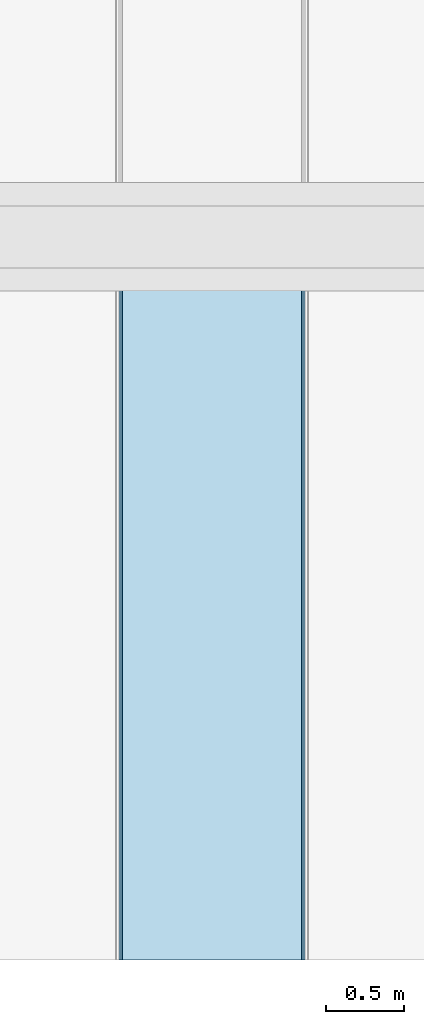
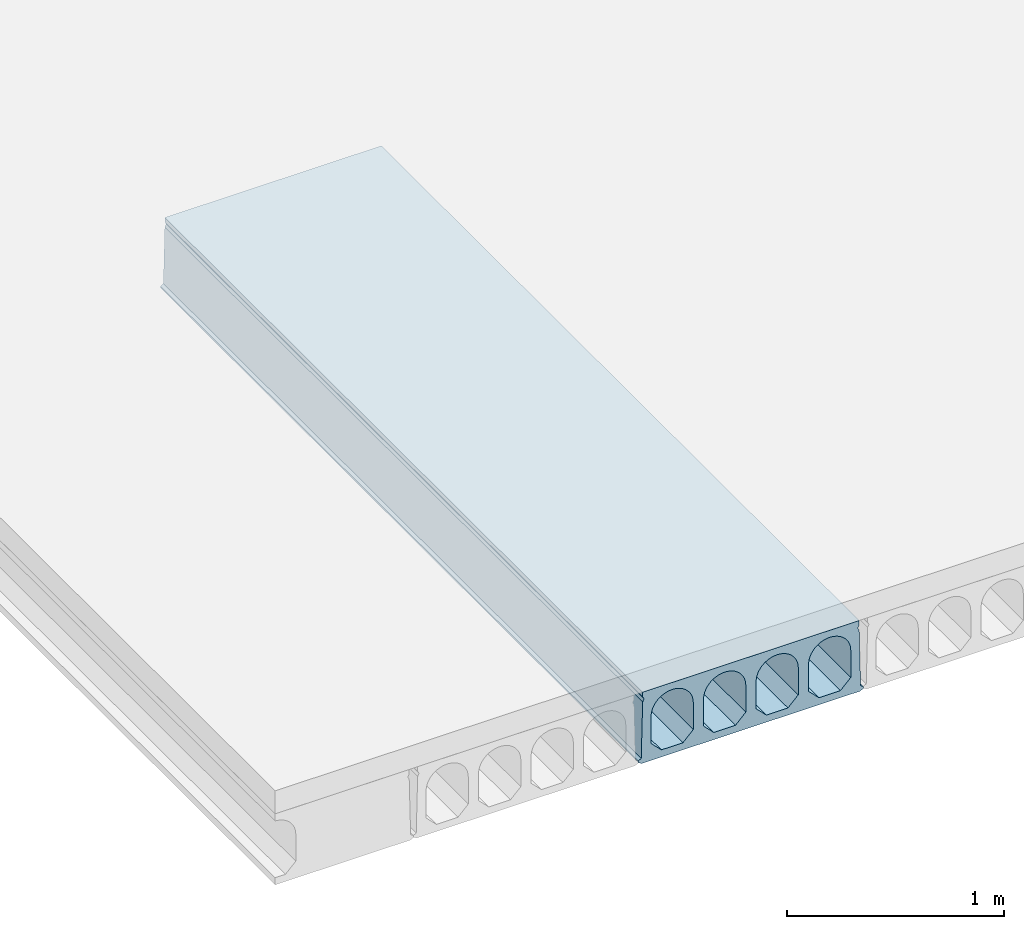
# One storey, part 40 of 98: 1 slab.
"""IFC2X3 building model written with IfcOpenShell, lengths in millimetres."""

from ifc_helpers import new_model, entity, si_unit, converted_unit, derived_unit, direction, frame, origin_with_axes, place, context, subcontext, project, spatial, faceted_brep, type_object, element, save


model = new_model("IFC2X3")

# Units and contexts
model_context = context("Model", 3, precision=0.01, world=frame((0.0, 4.29681676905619e-09, 0.0)), true_north=direction((4.01073788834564e-13, 1.0)))
plan_context = context("Plan", 3, precision=0.01, world=frame((0.0, 4.29681676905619e-09, 0.0)), true_north=direction((4.01073788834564e-13, 1.0)))
body_context = subcontext(model_context, "Body", "Model", "MODEL_VIEW")
ifc_project = project(units=[converted_unit("PLANEANGLEUNIT", "DEGREE", entity("IfcPositiveLengthMeasure", 0.0174532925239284), si_unit("PLANEANGLEUNIT", "RADIAN"), dimensions=[0, 0, 0, 0, 0, 0, 0]), si_unit("AREAUNIT", "SQUARE_METRE"), si_unit("LENGTHUNIT", "METRE", prefix="MILLI"), si_unit("MASSUNIT", "GRAM", prefix="KILO"), si_unit("POWERUNIT", "WATT"), si_unit("PRESSUREUNIT", "PASCAL"), si_unit("FORCEUNIT", "NEWTON", prefix="KILO"), si_unit("ELECTRICCURRENTUNIT", "AMPERE"), si_unit("THERMODYNAMICTEMPERATUREUNIT", "DEGREE_CELSIUS"), si_unit("TIMEUNIT", "SECOND"), si_unit("VOLUMEUNIT", "CUBIC_METRE"), derived_unit("LINEARVELOCITYUNIT", [(si_unit("LENGTHUNIT", "METRE"), 1), (si_unit("TIMEUNIT", "SECOND"), -1)]), derived_unit("VOLUMETRICFLOWRATEUNIT", [(si_unit("VOLUMEUNIT", "CUBIC_METRE"), 1), (si_unit("TIMEUNIT", "SECOND"), -1)]), derived_unit("THERMALTRANSMITTANCEUNIT", [(si_unit("POWERUNIT", "WATT"), 1), (si_unit("THERMODYNAMICTEMPERATUREUNIT", "KELVIN"), -1), (si_unit("AREAUNIT", "SQUARE_METRE"), -1)])], contexts=[model_context, plan_context])

# Site, building, storey
site_placement = place(None, frame((0.0, -4.29681676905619e-09, 0.0), z_axis=(0.0, 0.0, 1.0), x_axis=(1.0, 0.0, 0.0)))
site = spatial("IfcSite", under=ifc_project, at=site_placement, Name="Gardermoen", CompositionType="ELEMENT")
building_placement = place(site_placement, frame((0.0, 4.29681676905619e-09, 0.0), z_axis=(0.0, 0.0, 1.0), x_axis=(1.0, 0.0, 0.0)))
building = spatial("IfcBuilding", under=site, at=building_placement, Name="TS", CompositionType="ELEMENT")
storey_placement = place(building_placement, origin_with_axes())
storey = spatial("IfcBuildingStorey", under=building, at=storey_placement, Name="D", CompositionType="ELEMENT", Elevation=0.0)

# Slab
slab_type = type_object("IfcSlabType", Name="HD400", PredefinedType="NOTDEFINED")
slab_placement = place(storey_placement, frame((516399.999766, 396739.995625, 203600.0), z_axis=(0.0, 0.0, 1.0), x_axis=(0.0, 1.0, 0.0)))
element("IfcSlab", 1, at=slab_placement, inside=storey, type_object=slab_type, Name="HULLDEKKE", ObjectType="HD400", PredefinedType="FLOOR", context=body_context, shape_type="Brep", body=[
    faceted_brep([(4105.68103395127, 600.0, -180.0), (4105.68103395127, 600.0, -190.0), (8520.0, 600.0, -190.0), (8520.0, 600.0, -180.0), (4105.68103395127, 585.0, -170.0), (8520.0, 585.0, -170.0), (4105.68103395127, 577.5, 145.0), (8520.0, 577.5, 145.0), (4105.68103395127, 570.0, 160.0), (8520.0, 570.0, 160.0), (4105.68103395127, 577.5, 175.0), (8520.0, 577.5, 175.0), (4105.68103395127, 577.5, 200.0), (8520.0, 577.5, 200.0), (4105.68103395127, -577.5, 200.0), (8520.0, -577.5, 200.0), (4105.68103395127, -577.5, 175.0), (8520.0, -577.5, 175.0), (4105.68103395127, -570.0, 160.0), (8520.0, -570.0, 160.0), (4105.68103395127, -577.5, 145.0), (8520.0, -577.5, 145.0), (4105.68103395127, -585.0, -170.0), (8520.0, -585.0, -170.0), (4105.68103395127, -600.0, -180.0), (8520.0, -600.0, -180.0), (4105.68103395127, -600.0, -190.0), (8520.0, -600.0, -190.0), (4105.68103395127, -583.380004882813, -200.0), (8520.0, -583.380004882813, -200.0), (4105.68103395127, 583.380004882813, -200.0), (8520.0, 583.380004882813, -200.0), (4105.68103395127, -477.5, -160.0), (4105.68103395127, -362.5, -160.0), (8520.0, -362.5, -160.0), (8520.0, -477.5, -160.0), (4105.68103395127, -532.5, -105.0), (8520.0, -532.5, -105.0), (4105.68103395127, -532.5, 47.5), (8520.0, -532.5, 47.5), (4105.68103395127, -532.115755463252, 56.7901763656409), (8520.0, -532.115755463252, 56.7901763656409), (4105.68103395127, -530.965646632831, 66.0168914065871), (8520.0, -530.965646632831, 66.0168914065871), (4105.68103395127, -529.057529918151, 75.1171173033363), (8520.0, -529.057529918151, 75.1171173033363), (4105.68103395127, -526.404439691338, 84.028690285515), (8520.0, -526.404439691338, 84.028690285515), (4105.68103395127, -523.024499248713, 92.6907352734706), (8520.0, -523.024499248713, 92.6907352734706), (4105.68103395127, -518.940797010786, 101.044081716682), (8520.0, -518.940797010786, 101.044081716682), (4105.68103395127, -514.181228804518, 109.031667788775), (8520.0, -514.181228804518, 109.031667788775), (4105.68103395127, -508.778307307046, 116.598930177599), (8520.0, -508.778307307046, 116.598930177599), (4105.68103395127, -502.768939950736, 123.694176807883), (8520.0, -502.768939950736, 123.694176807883), (4105.68103395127, -496.194176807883, 130.268939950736), (8520.0, -496.194176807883, 130.268939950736), (4105.68103395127, -489.098930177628, 136.278307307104), (8520.0, -489.098930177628, 136.278307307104), (4105.68103395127, -481.531667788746, 141.681228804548), (8520.0, -481.531667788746, 141.681228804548), (4105.68103395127, -473.544081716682, 146.440797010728), (8520.0, -473.544081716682, 146.440797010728), (4105.68103395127, -465.190735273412, 150.524499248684), (8520.0, -465.190735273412, 150.524499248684), (4105.68103395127, -456.528690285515, 153.904439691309), (8520.0, -456.528690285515, 153.904439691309), (4105.68103395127, -447.617117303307, 156.55752991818), (8520.0, -447.617117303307, 156.55752991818), (4105.68103395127, -438.516891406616, 158.465646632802), (8520.0, -438.516891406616, 158.465646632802), (4105.68103395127, -429.290176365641, 159.615755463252), (8520.0, -429.290176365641, 159.615755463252), (4105.68103395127, -420.0, 160.0), (8520.0, -420.0, 160.0), (4105.68103395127, -410.709823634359, 159.615755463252), (8520.0, -410.709823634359, 159.615755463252), (4105.68103395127, -401.483108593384, 158.465646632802), (8520.0, -401.483108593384, 158.465646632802), (4105.68103395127, -392.382882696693, 156.55752991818), (8520.0, -392.382882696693, 156.55752991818), (4105.68103395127, -383.471309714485, 153.904439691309), (8520.0, -383.471309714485, 153.904439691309), (4105.68103395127, -374.809264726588, 150.524499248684), (8520.0, -374.809264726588, 150.524499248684), (4105.68103395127, -366.455918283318, 146.440797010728), (8520.0, -366.455918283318, 146.440797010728), (4105.68103395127, -358.468332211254, 141.681228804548), (8520.0, -358.468332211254, 141.681228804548), (4105.68103395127, -350.901069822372, 136.278307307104), (8520.0, -350.901069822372, 136.278307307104), (4105.68103395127, -343.805823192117, 130.268939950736), (8520.0, -343.805823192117, 130.268939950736), (4105.68103395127, -337.231060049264, 123.694176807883), (8520.0, -337.231060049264, 123.694176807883), (4105.68103395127, -331.221692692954, 116.598930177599), (8520.0, -331.221692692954, 116.598930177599), (4105.68103395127, -325.818771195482, 109.031667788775), (8520.0, -325.818771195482, 109.031667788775), (4105.68103395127, -321.059202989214, 101.044081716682), (8520.0, -321.059202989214, 101.044081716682), (4105.68103395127, -316.975500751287, 92.6907352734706), (8520.0, -316.975500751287, 92.6907352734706), (4105.68103395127, -313.595560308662, 84.028690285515), (8520.0, -313.595560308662, 84.028690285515), (4105.68103395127, -310.942470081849, 75.1171173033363), (8520.0, -310.942470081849, 75.1171173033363), (4105.68103395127, -309.034353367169, 66.0168914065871), (8520.0, -309.034353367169, 66.0168914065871), (4105.68103395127, -307.884244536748, 56.7901763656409), (8520.0, -307.884244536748, 56.7901763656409), (4105.68103395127, -307.5, 47.5), (8520.0, -307.5, 47.5), (4105.68103395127, -307.5, -105.0), (8520.0, -307.5, -105.0), (4105.68103395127, -197.5, -160.0), (4105.68103395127, -82.5, -160.0), (8520.0, -82.5, -160.0), (8520.0, -197.5, -160.0), (4105.68103395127, -252.5, -105.0), (8520.0, -252.5, -105.0), (4105.68103395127, -252.5, 47.5), (8520.0, -252.5, 47.5), (4105.68103395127, -252.115755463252, 56.7901763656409), (8520.0, -252.115755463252, 56.7901763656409), (4105.68103395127, -250.965646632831, 66.0168914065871), (8520.0, -250.965646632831, 66.0168914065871), (4105.68103395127, -249.057529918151, 75.1171173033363), (8520.0, -249.057529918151, 75.1171173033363), (4105.68103395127, -246.404439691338, 84.028690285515), (8520.0, -246.404439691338, 84.028690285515), (4105.68103395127, -243.024499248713, 92.6907352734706), (8520.0, -243.024499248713, 92.6907352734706), (4105.68103395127, -238.940797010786, 101.044081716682), (8520.0, -238.940797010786, 101.044081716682), (4105.68103395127, -234.181228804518, 109.031667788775), (8520.0, -234.181228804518, 109.031667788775), (4105.68103395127, -228.778307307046, 116.598930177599), (8520.0, -228.778307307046, 116.598930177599), (4105.68103395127, -222.768939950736, 123.694176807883), (8520.0, -222.768939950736, 123.694176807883), (4105.68103395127, -216.194176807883, 130.268939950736), (8520.0, -216.194176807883, 130.268939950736), (4105.68103395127, -209.098930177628, 136.278307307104), (8520.0, -209.098930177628, 136.278307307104), (4105.68103395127, -201.531667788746, 141.681228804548), (8520.0, -201.531667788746, 141.681228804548), (4105.68103395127, -193.544081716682, 146.440797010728), (8520.0, -193.544081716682, 146.440797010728), (4105.68103395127, -185.190735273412, 150.524499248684), (8520.0, -185.190735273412, 150.524499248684), (4105.68103395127, -176.528690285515, 153.904439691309), (8520.0, -176.528690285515, 153.904439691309), (4105.68103395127, -167.617117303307, 156.55752991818), (8520.0, -167.617117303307, 156.55752991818), (4105.68103395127, -158.516891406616, 158.465646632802), (8520.0, -158.516891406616, 158.465646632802), (4105.68103395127, -149.290176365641, 159.615755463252), (8520.0, -149.290176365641, 159.615755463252), (4105.68103395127, -140.0, 160.0), (8520.0, -140.0, 160.0), (4105.68103395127, -130.709823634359, 159.615755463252), (8520.0, -130.709823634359, 159.615755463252), (4105.68103395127, -121.483108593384, 158.465646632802), (8520.0, -121.483108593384, 158.465646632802), (4105.68103395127, -112.382882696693, 156.55752991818), (8520.0, -112.382882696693, 156.55752991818), (4105.68103395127, -103.471309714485, 153.904439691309), (8520.0, -103.471309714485, 153.904439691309), (4105.68103395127, -94.8092647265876, 150.524499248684), (8520.0, -94.8092647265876, 150.524499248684), (4105.68103395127, -86.4559182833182, 146.440797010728), (8520.0, -86.4559182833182, 146.440797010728), (4105.68103395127, -78.4683322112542, 141.681228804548), (8520.0, -78.4683322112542, 141.681228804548), (4105.68103395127, -70.9010698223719, 136.278307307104), (8520.0, -70.9010698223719, 136.278307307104), (4105.68103395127, -63.8058231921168, 130.268939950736), (8520.0, -63.8058231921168, 130.268939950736), (4105.68103395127, -57.2310600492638, 123.694176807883), (8520.0, -57.2310600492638, 123.694176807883), (4105.68103395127, -51.2216926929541, 116.598930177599), (8520.0, -51.2216926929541, 116.598930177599), (4105.68103395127, -45.8187711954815, 109.031667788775), (8520.0, -45.8187711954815, 109.031667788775), (4105.68103395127, -41.0592029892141, 101.044081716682), (8520.0, -41.0592029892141, 101.044081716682), (4105.68103395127, -36.9755007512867, 92.6907352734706), (8520.0, -36.9755007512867, 92.6907352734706), (4105.68103395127, -33.5955603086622, 84.028690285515), (8520.0, -33.5955603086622, 84.028690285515), (4105.68103395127, -30.942470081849, 75.1171173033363), (8520.0, -30.942470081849, 75.1171173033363), (4105.68103395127, -29.0343533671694, 66.0168914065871), (8520.0, -29.0343533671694, 66.0168914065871), (4105.68103395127, -27.8842445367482, 56.7901763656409), (8520.0, -27.8842445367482, 56.7901763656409), (4105.68103395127, -27.5, 47.5), (8520.0, -27.5, 47.5), (4105.68103395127, -27.5, -105.0), (8520.0, -27.5, -105.0), (4105.68103395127, 82.5, -160.0), (4105.68103395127, 197.5, -160.0), (8520.0, 197.5, -160.0), (8520.0, 82.5, -160.0), (4105.68103395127, 27.5, -105.0), (8520.0, 27.5, -105.0), (4105.68103395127, 27.5, 47.5), (8520.0, 27.5, 47.5), (4105.68103395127, 27.8842445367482, 56.7901763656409), (8520.0, 27.8842445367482, 56.7901763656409), (4105.68103395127, 29.0343533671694, 66.0168914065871), (8520.0, 29.0343533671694, 66.0168914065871), (4105.68103395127, 30.942470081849, 75.1171173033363), (8520.0, 30.942470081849, 75.1171173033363), (4105.68103395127, 33.5955603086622, 84.028690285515), (8520.0, 33.5955603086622, 84.028690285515), (4105.68103395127, 36.9755007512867, 92.6907352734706), (8520.0, 36.9755007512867, 92.6907352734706), (4105.68103395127, 41.0592029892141, 101.044081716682), (8520.0, 41.0592029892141, 101.044081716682), (4105.68103395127, 45.8187711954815, 109.031667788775), (8520.0, 45.8187711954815, 109.031667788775), (4105.68103395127, 51.2216926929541, 116.598930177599), (8520.0, 51.2216926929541, 116.598930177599), (4105.68103395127, 57.2310600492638, 123.694176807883), (8520.0, 57.2310600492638, 123.694176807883), (4105.68103395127, 63.8058231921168, 130.268939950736), (8520.0, 63.8058231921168, 130.268939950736), (4105.68103395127, 70.9010698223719, 136.278307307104), (8520.0, 70.9010698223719, 136.278307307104), (4105.68103395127, 78.4683322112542, 141.681228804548), (8520.0, 78.4683322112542, 141.681228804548), (4105.68103395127, 86.4559182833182, 146.440797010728), (8520.0, 86.4559182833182, 146.440797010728), (4105.68103395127, 94.8092647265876, 150.524499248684), (8520.0, 94.8092647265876, 150.524499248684), (4105.68103395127, 103.471309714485, 153.904439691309), (8520.0, 103.471309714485, 153.904439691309), (4105.68103395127, 112.382882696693, 156.55752991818), (8520.0, 112.382882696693, 156.55752991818), (4105.68103395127, 121.483108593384, 158.465646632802), (8520.0, 121.483108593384, 158.465646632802), (4105.68103395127, 130.709823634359, 159.615755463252), (8520.0, 130.709823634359, 159.615755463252), (4105.68103395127, 140.0, 160.0), (8520.0, 140.0, 160.0), (4105.68103395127, 149.290176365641, 159.615755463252), (8520.0, 149.290176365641, 159.615755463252), (4105.68103395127, 158.516891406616, 158.465646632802), (8520.0, 158.516891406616, 158.465646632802), (4105.68103395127, 167.617117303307, 156.55752991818), (8520.0, 167.617117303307, 156.55752991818), (4105.68103395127, 176.528690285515, 153.904439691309), (8520.0, 176.528690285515, 153.904439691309), (4105.68103395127, 185.190735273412, 150.524499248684), (8520.0, 185.190735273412, 150.524499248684), (4105.68103395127, 193.544081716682, 146.440797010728), (8520.0, 193.544081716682, 146.440797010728), (4105.68103395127, 201.531667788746, 141.681228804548), (8520.0, 201.531667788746, 141.681228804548), (4105.68103395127, 209.098930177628, 136.278307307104), (8520.0, 209.098930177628, 136.278307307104), (4105.68103395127, 216.194176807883, 130.268939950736), (8520.0, 216.194176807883, 130.268939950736), (4105.68103395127, 222.768939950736, 123.694176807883), (8520.0, 222.768939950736, 123.694176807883), (4105.68103395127, 228.778307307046, 116.598930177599), (8520.0, 228.778307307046, 116.598930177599), (4105.68103395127, 234.181228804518, 109.031667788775), (8520.0, 234.181228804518, 109.031667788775), (4105.68103395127, 238.940797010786, 101.044081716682), (8520.0, 238.940797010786, 101.044081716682), (4105.68103395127, 243.024499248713, 92.6907352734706), (8520.0, 243.024499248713, 92.6907352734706), (4105.68103395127, 246.404439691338, 84.028690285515), (8520.0, 246.404439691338, 84.028690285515), (4105.68103395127, 249.057529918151, 75.1171173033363), (8520.0, 249.057529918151, 75.1171173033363), (4105.68103395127, 250.965646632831, 66.0168914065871), (8520.0, 250.965646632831, 66.0168914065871), (4105.68103395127, 252.115755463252, 56.7901763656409), (8520.0, 252.115755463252, 56.7901763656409), (4105.68103395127, 252.5, 47.5), (8520.0, 252.5, 47.5), (4105.68103395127, 252.5, -105.0), (8520.0, 252.5, -105.0), (4105.68103395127, 362.5, -160.0), (4105.68103395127, 477.5, -160.0), (8520.0, 477.5, -160.0), (8520.0, 362.5, -160.0), (4105.68103395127, 307.5, -105.0), (8520.0, 307.5, -105.0), (4105.68103395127, 307.5, 47.5), (8520.0, 307.5, 47.5), (4105.68103395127, 307.884244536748, 56.7901763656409), (8520.0, 307.884244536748, 56.7901763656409), (4105.68103395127, 309.034353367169, 66.0168914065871), (8520.0, 309.034353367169, 66.0168914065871), (4105.68103395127, 310.942470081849, 75.1171173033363), (8520.0, 310.942470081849, 75.1171173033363), (4105.68103395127, 313.595560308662, 84.028690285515), (8520.0, 313.595560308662, 84.028690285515), (4105.68103395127, 316.975500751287, 92.6907352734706), (8520.0, 316.975500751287, 92.6907352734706), (4105.68103395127, 321.059202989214, 101.044081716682), (8520.0, 321.059202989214, 101.044081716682), (4105.68103395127, 325.818771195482, 109.031667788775), (8520.0, 325.818771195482, 109.031667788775), (4105.68103395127, 331.221692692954, 116.598930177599), (8520.0, 331.221692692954, 116.598930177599), (4105.68103395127, 337.231060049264, 123.694176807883), (8520.0, 337.231060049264, 123.694176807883), (4105.68103395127, 343.805823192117, 130.268939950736), (8520.0, 343.805823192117, 130.268939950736), (4105.68103395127, 350.901069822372, 136.278307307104), (8520.0, 350.901069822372, 136.278307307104), (4105.68103395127, 358.468332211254, 141.681228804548), (8520.0, 358.468332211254, 141.681228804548), (4105.68103395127, 366.455918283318, 146.440797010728), (8520.0, 366.455918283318, 146.440797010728), (4105.68103395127, 374.809264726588, 150.524499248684), (8520.0, 374.809264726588, 150.524499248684), (4105.68103395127, 383.471309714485, 153.904439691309), (8520.0, 383.471309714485, 153.904439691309), (4105.68103395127, 392.382882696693, 156.55752991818), (8520.0, 392.382882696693, 156.55752991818), (4105.68103395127, 401.483108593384, 158.465646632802), (8520.0, 401.483108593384, 158.465646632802), (4105.68103395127, 410.709823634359, 159.615755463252), (8520.0, 410.709823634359, 159.615755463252), (4105.68103395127, 420.0, 160.0), (8520.0, 420.0, 160.0), (4105.68103395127, 429.290176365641, 159.615755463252), (8520.0, 429.290176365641, 159.615755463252), (4105.68103395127, 438.516891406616, 158.465646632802), (8520.0, 438.516891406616, 158.465646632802), (4105.68103395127, 447.617117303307, 156.55752991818), (8520.0, 447.617117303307, 156.55752991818), (4105.68103395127, 456.528690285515, 153.904439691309), (8520.0, 456.528690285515, 153.904439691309), (4105.68103395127, 465.190735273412, 150.524499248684), (8520.0, 465.190735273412, 150.524499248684), (4105.68103395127, 473.544081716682, 146.440797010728), (8520.0, 473.544081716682, 146.440797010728), (4105.68103395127, 481.531667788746, 141.681228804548), (8520.0, 481.531667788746, 141.681228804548), (4105.68103395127, 489.098930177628, 136.278307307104), (8520.0, 489.098930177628, 136.278307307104), (4105.68103395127, 496.194176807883, 130.268939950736), (8520.0, 496.194176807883, 130.268939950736), (4105.68103395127, 502.768939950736, 123.694176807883), (8520.0, 502.768939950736, 123.694176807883), (4105.68103395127, 508.778307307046, 116.598930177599), (8520.0, 508.778307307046, 116.598930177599), (4105.68103395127, 514.181228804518, 109.031667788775), (8520.0, 514.181228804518, 109.031667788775), (4105.68103395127, 518.940797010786, 101.044081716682), (8520.0, 518.940797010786, 101.044081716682), (4105.68103395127, 523.024499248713, 92.6907352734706), (8520.0, 523.024499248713, 92.6907352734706), (4105.68103395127, 526.404439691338, 84.028690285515), (8520.0, 526.404439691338, 84.028690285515), (4105.68103395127, 529.057529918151, 75.1171173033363), (8520.0, 529.057529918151, 75.1171173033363), (4105.68103395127, 530.965646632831, 66.0168914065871), (8520.0, 530.965646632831, 66.0168914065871), (4105.68103395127, 532.115755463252, 56.7901763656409), (8520.0, 532.115755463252, 56.7901763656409), (4105.68103395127, 532.5, 47.5), (8520.0, 532.5, 47.5), (4105.68103395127, 532.5, -105.0), (8520.0, 532.5, -105.0)], [[[0, 1, 2, 3]], [[4, 0, 3, 5]], [[6, 4, 5, 7]], [[8, 6, 7, 9]], [[10, 8, 9, 11]], [[12, 10, 11, 13]], [[14, 12, 13, 15]], [[16, 14, 15, 17]], [[18, 16, 17, 19]], [[20, 18, 19, 21]], [[22, 20, 21, 23]], [[24, 22, 23, 25]], [[26, 24, 25, 27]], [[28, 26, 27, 29]], [[30, 28, 29, 31]], [[1, 30, 31, 2]], [[32, 33, 34, 35]], [[36, 32, 35, 37]], [[38, 36, 37, 39]], [[40, 38, 39, 41]], [[42, 40, 41, 43]], [[44, 42, 43, 45]], [[46, 44, 45, 47]], [[48, 46, 47, 49]], [[50, 48, 49, 51]], [[52, 50, 51, 53]], [[54, 52, 53, 55]], [[56, 54, 55, 57]], [[58, 56, 57, 59]], [[60, 58, 59, 61]], [[62, 60, 61, 63]], [[64, 62, 63, 65]], [[66, 64, 65, 67]], [[68, 66, 67, 69]], [[70, 68, 69, 71]], [[72, 70, 71, 73]], [[74, 72, 73, 75]], [[76, 74, 75, 77]], [[78, 76, 77, 79]], [[80, 78, 79, 81]], [[82, 80, 81, 83]], [[84, 82, 83, 85]], [[86, 84, 85, 87]], [[88, 86, 87, 89]], [[90, 88, 89, 91]], [[92, 90, 91, 93]], [[94, 92, 93, 95]], [[96, 94, 95, 97]], [[98, 96, 97, 99]], [[100, 98, 99, 101]], [[102, 100, 101, 103]], [[104, 102, 103, 105]], [[106, 104, 105, 107]], [[108, 106, 107, 109]], [[110, 108, 109, 111]], [[112, 110, 111, 113]], [[114, 112, 113, 115]], [[116, 114, 115, 117]], [[33, 116, 117, 34]], [[118, 119, 120, 121]], [[122, 118, 121, 123]], [[124, 122, 123, 125]], [[126, 124, 125, 127]], [[128, 126, 127, 129]], [[130, 128, 129, 131]], [[132, 130, 131, 133]], [[134, 132, 133, 135]], [[136, 134, 135, 137]], [[138, 136, 137, 139]], [[140, 138, 139, 141]], [[142, 140, 141, 143]], [[144, 142, 143, 145]], [[146, 144, 145, 147]], [[148, 146, 147, 149]], [[150, 148, 149, 151]], [[152, 150, 151, 153]], [[154, 152, 153, 155]], [[156, 154, 155, 157]], [[158, 156, 157, 159]], [[160, 158, 159, 161]], [[162, 160, 161, 163]], [[164, 162, 163, 165]], [[166, 164, 165, 167]], [[168, 166, 167, 169]], [[170, 168, 169, 171]], [[172, 170, 171, 173]], [[174, 172, 173, 175]], [[176, 174, 175, 177]], [[178, 176, 177, 179]], [[180, 178, 179, 181]], [[182, 180, 181, 183]], [[184, 182, 183, 185]], [[186, 184, 185, 187]], [[188, 186, 187, 189]], [[190, 188, 189, 191]], [[192, 190, 191, 193]], [[194, 192, 193, 195]], [[196, 194, 195, 197]], [[198, 196, 197, 199]], [[200, 198, 199, 201]], [[202, 200, 201, 203]], [[119, 202, 203, 120]], [[204, 205, 206, 207]], [[208, 204, 207, 209]], [[210, 208, 209, 211]], [[212, 210, 211, 213]], [[214, 212, 213, 215]], [[216, 214, 215, 217]], [[218, 216, 217, 219]], [[220, 218, 219, 221]], [[222, 220, 221, 223]], [[224, 222, 223, 225]], [[226, 224, 225, 227]], [[228, 226, 227, 229]], [[230, 228, 229, 231]], [[232, 230, 231, 233]], [[234, 232, 233, 235]], [[236, 234, 235, 237]], [[238, 236, 237, 239]], [[240, 238, 239, 241]], [[242, 240, 241, 243]], [[244, 242, 243, 245]], [[246, 244, 245, 247]], [[248, 246, 247, 249]], [[250, 248, 249, 251]], [[252, 250, 251, 253]], [[254, 252, 253, 255]], [[256, 254, 255, 257]], [[258, 256, 257, 259]], [[260, 258, 259, 261]], [[262, 260, 261, 263]], [[264, 262, 263, 265]], [[266, 264, 265, 267]], [[268, 266, 267, 269]], [[270, 268, 269, 271]], [[272, 270, 271, 273]], [[274, 272, 273, 275]], [[276, 274, 275, 277]], [[278, 276, 277, 279]], [[280, 278, 279, 281]], [[282, 280, 281, 283]], [[284, 282, 283, 285]], [[286, 284, 285, 287]], [[288, 286, 287, 289]], [[205, 288, 289, 206]], [[290, 291, 292, 293]], [[294, 290, 293, 295]], [[296, 294, 295, 297]], [[298, 296, 297, 299]], [[300, 298, 299, 301]], [[302, 300, 301, 303]], [[304, 302, 303, 305]], [[306, 304, 305, 307]], [[308, 306, 307, 309]], [[310, 308, 309, 311]], [[312, 310, 311, 313]], [[314, 312, 313, 315]], [[316, 314, 315, 317]], [[318, 316, 317, 319]], [[320, 318, 319, 321]], [[322, 320, 321, 323]], [[324, 322, 323, 325]], [[326, 324, 325, 327]], [[328, 326, 327, 329]], [[330, 328, 329, 331]], [[332, 330, 331, 333]], [[334, 332, 333, 335]], [[336, 334, 335, 337]], [[338, 336, 337, 339]], [[340, 338, 339, 341]], [[342, 340, 341, 343]], [[344, 342, 343, 345]], [[346, 344, 345, 347]], [[348, 346, 347, 349]], [[350, 348, 349, 351]], [[352, 350, 351, 353]], [[354, 352, 353, 355]], [[356, 354, 355, 357]], [[358, 356, 357, 359]], [[360, 358, 359, 361]], [[362, 360, 361, 363]], [[364, 362, 363, 365]], [[366, 364, 365, 367]], [[368, 366, 367, 369]], [[370, 368, 369, 371]], [[372, 370, 371, 373]], [[374, 372, 373, 375]], [[291, 374, 375, 292]], [[3, 2, 31, 29, 27, 25, 23, 21, 19, 17, 15, 13, 11, 9, 7, 5], [293, 292, 375, 373, 371, 369, 367, 365, 363, 361, 359, 357, 355, 353, 351, 349, 347, 345, 343, 341, 339, 337, 335, 333, 331, 329, 327, 325, 323, 321, 319, 317, 315, 313, 311, 309, 307, 305, 303, 301, 299, 297, 295], [207, 206, 289, 287, 285, 283, 281, 279, 277, 275, 273, 271, 269, 267, 265, 263, 261, 259, 257, 255, 253, 251, 249, 247, 245, 243, 241, 239, 237, 235, 233, 231, 229, 227, 225, 223, 221, 219, 217, 215, 213, 211, 209], [121, 120, 203, 201, 199, 197, 195, 193, 191, 189, 187, 185, 183, 181, 179, 177, 175, 173, 171, 169, 167, 165, 163, 161, 159, 157, 155, 153, 151, 149, 147, 145, 143, 141, 139, 137, 135, 133, 131, 129, 127, 125, 123], [35, 34, 117, 115, 113, 111, 109, 107, 105, 103, 101, 99, 97, 95, 93, 91, 89, 87, 85, 83, 81, 79, 77, 75, 73, 71, 69, 67, 65, 63, 61, 59, 57, 55, 53, 51, 49, 47, 45, 43, 41, 39, 37]], [[4, 6, 8, 10, 12, 14, 16, 18, 20, 22, 24, 26, 28, 30, 1, 0], [36, 38, 40, 42, 44, 46, 48, 50, 52, 54, 56, 58, 60, 62, 64, 66, 68, 70, 72, 74, 76, 78, 80, 82, 84, 86, 88, 90, 92, 94, 96, 98, 100, 102, 104, 106, 108, 110, 112, 114, 116, 33, 32], [122, 124, 126, 128, 130, 132, 134, 136, 138, 140, 142, 144, 146, 148, 150, 152, 154, 156, 158, 160, 162, 164, 166, 168, 170, 172, 174, 176, 178, 180, 182, 184, 186, 188, 190, 192, 194, 196, 198, 200, 202, 119, 118], [208, 210, 212, 214, 216, 218, 220, 222, 224, 226, 228, 230, 232, 234, 236, 238, 240, 242, 244, 246, 248, 250, 252, 254, 256, 258, 260, 262, 264, 266, 268, 270, 272, 274, 276, 278, 280, 282, 284, 286, 288, 205, 204], [294, 296, 298, 300, 302, 304, 306, 308, 310, 312, 314, 316, 318, 320, 322, 324, 326, 328, 330, 332, 334, 336, 338, 340, 342, 344, 346, 348, 350, 352, 354, 356, 358, 360, 362, 364, 366, 368, 370, 372, 374, 291, 290]]], orient=[[False], [False], [False], [False], [False], [False], [False], [False], [False], [False], [False], [False], [False], [False], [False], [False], [False], [False], [False], [False], [False], [False], [False], [False], [False], [False], [False], [False], [False], [False], [False], [False], [False], [False], [False], [False], [False], [False], [False], [False], [False], [False], [False], [False], [False], [False], [False], [False], [False], [False], [False], [False], [False], [False], [False], [False], [False], [False], [False], [False], [False], [False], [False], [False], [False], [False], [False], [False], [False], [False], [False], [False], [False], [False], [False], [False], [False], [False], [False], [False], [False], [False], [False], [False], [False], [False], [False], [False], [False], [False], [False], [False], [False], [False], [False], [False], [False], [False], [False], [False], [False], [False], [False], [False], [False], [False], [False], [False], [False], [False], [False], [False], [False], [False], [False], [False], [False], [False], [False], [False], [False], [False], [False], [False], [False], [False], [False], [False], [False], [False], [False], [False], [False], [False], [False], [False], [False], [False], [False], [False], [False], [False], [False], [False], [False], [False], [False], [False], [False], [False], [False], [False], [False], [False], [False], [False], [False], [False], [False], [False], [False], [False], [False], [False], [False], [False], [False], [False], [False], [False], [False], [False], [False], [False], [False], [False], [False], [False], [False], [False], [False], [False], [False], [False], [False], [False], [False], [False], [False, False, False, False, False], [False, False, False, False, False]]),
])

save(model, "model.ifc")
